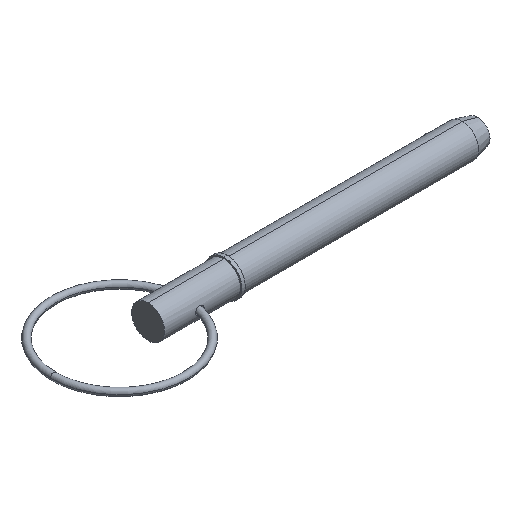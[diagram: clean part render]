
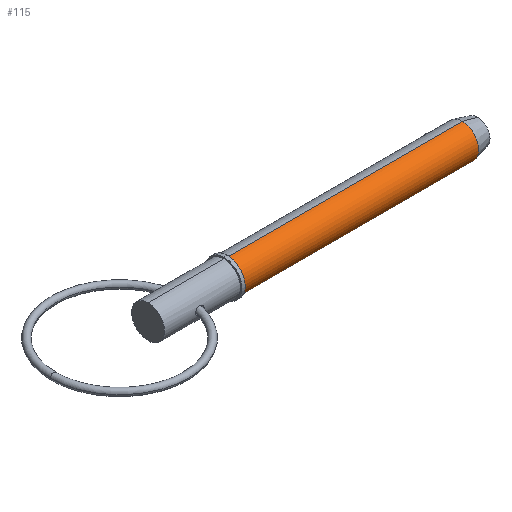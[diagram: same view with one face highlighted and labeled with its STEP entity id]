
A CAD part, isometric view. The second image highlights one B-rep face of the part: STEP entity #115.
In plain terms, the highlighted cylindrical face has radius 3.97 mm (diameter 7.94 mm), a partial arc.
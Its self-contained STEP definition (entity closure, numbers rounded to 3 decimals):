
#15 = LINE ( 'NONE', #945, #579 ) ;
#71 = AXIS2_PLACEMENT_3D ( 'NONE', #883, #432, #821 ) ;
#94 = EDGE_CURVE ( 'NONE', #249, #285, #463, .T. ) ;
#115 = ADVANCED_FACE ( 'NONE', ( #216 ), #305, .T. ) ;
#141 = EDGE_CURVE ( 'NONE', #726, #285, #410, .T. ) ;
#146 = DIRECTION ( 'NONE',  ( 0., 0., -1. ) ) ;
#158 = ORIENTED_EDGE ( 'NONE', *, *, #94, .F. ) ;
#181 = CARTESIAN_POINT ( 'NONE',  ( 75.676, 0., -3.97 ) ) ;
#216 = FACE_OUTER_BOUND ( 'NONE', #887, .T. ) ;
#249 = VERTEX_POINT ( 'NONE', #256 ) ;
#256 = CARTESIAN_POINT ( 'NONE',  ( 75.676, 0., 3.97 ) ) ;
#285 = VERTEX_POINT ( 'NONE', #181 ) ;
#299 = DIRECTION ( 'NONE',  ( 0., 0., -1. ) ) ;
#304 = EDGE_CURVE ( 'NONE', #413, #249, #15, .T. ) ;
#305 = CYLINDRICAL_SURFACE ( 'NONE', #979, 3.97 ) ;
#379 = DIRECTION ( 'NONE',  ( 1., 0., 0. ) ) ;
#410 = LINE ( 'NONE', #636, #528 ) ;
#413 = VERTEX_POINT ( 'NONE', #427 ) ;
#423 = CARTESIAN_POINT ( 'NONE',  ( 19.05, 0., -3.97 ) ) ;
#427 = CARTESIAN_POINT ( 'NONE',  ( 19.05, 0., 3.97 ) ) ;
#432 = DIRECTION ( 'NONE',  ( 1., 0., 0. ) ) ;
#456 = CARTESIAN_POINT ( 'NONE',  ( 75.676, 0., 0. ) ) ;
#463 = CIRCLE ( 'NONE', #710, 3.97 ) ;
#512 = CIRCLE ( 'NONE', #71, 3.97 ) ;
#524 = CARTESIAN_POINT ( 'NONE',  ( 0., 0., 0. ) ) ;
#528 = VECTOR ( 'NONE', #551, 1000. ) ;
#549 = ORIENTED_EDGE ( 'NONE', *, *, #705, .T. ) ;
#551 = DIRECTION ( 'NONE',  ( 1., 0., 0. ) ) ;
#579 = VECTOR ( 'NONE', #897, 1000. ) ;
#636 = CARTESIAN_POINT ( 'NONE',  ( 0., 0., -3.97 ) ) ;
#705 = EDGE_CURVE ( 'NONE', #413, #726, #512, .T. ) ;
#710 = AXIS2_PLACEMENT_3D ( 'NONE', #456, #913, #299 ) ;
#726 = VERTEX_POINT ( 'NONE', #423 ) ;
#821 = DIRECTION ( 'NONE',  ( 0., 0., -1. ) ) ;
#883 = CARTESIAN_POINT ( 'NONE',  ( 19.05, 0., 0. ) ) ;
#887 = EDGE_LOOP ( 'NONE', ( #955, #549, #969, #158 ) ) ;
#897 = DIRECTION ( 'NONE',  ( 1., 0., 0. ) ) ;
#913 = DIRECTION ( 'NONE',  ( 1., 0., 0. ) ) ;
#945 = CARTESIAN_POINT ( 'NONE',  ( 0., 0., 3.97 ) ) ;
#955 = ORIENTED_EDGE ( 'NONE', *, *, #304, .F. ) ;
#969 = ORIENTED_EDGE ( 'NONE', *, *, #141, .T. ) ;
#979 = AXIS2_PLACEMENT_3D ( 'NONE', #524, #379, #146 ) ;
